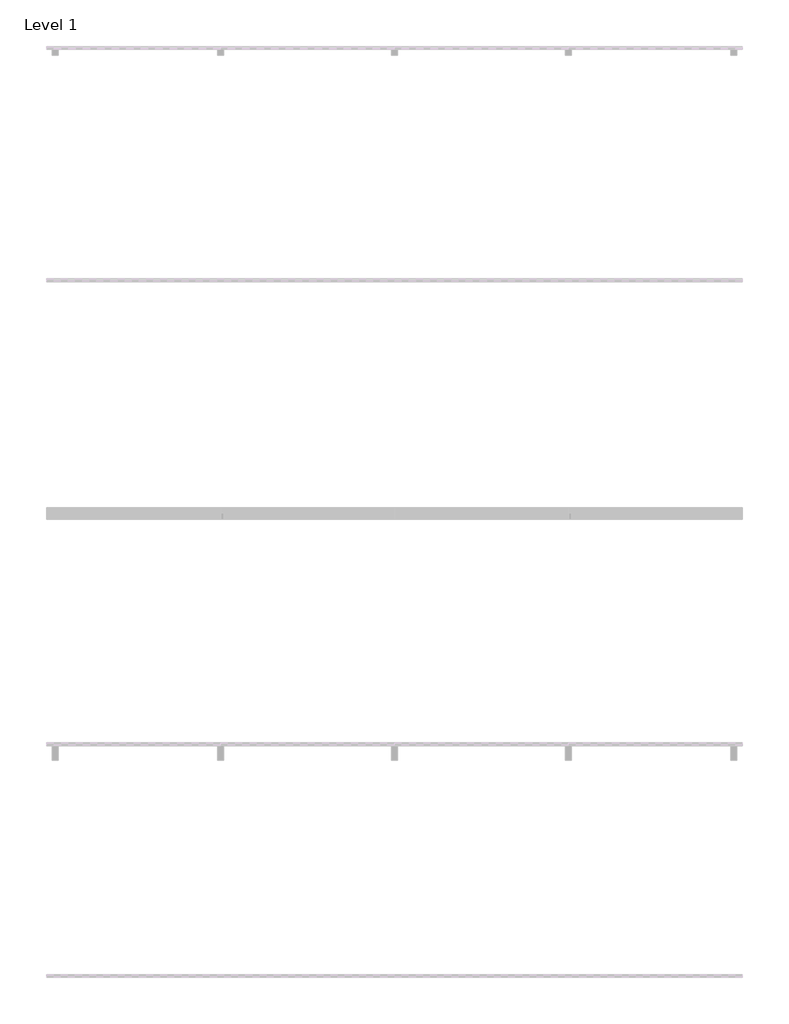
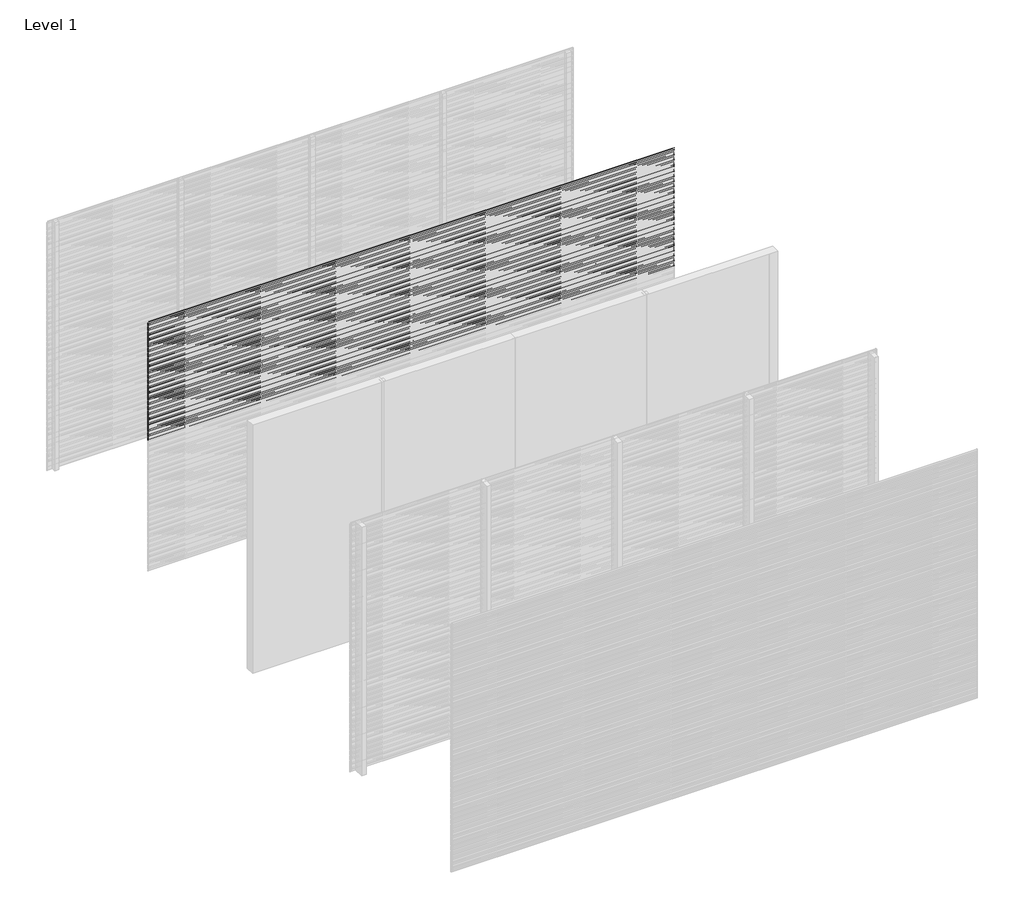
# One storey, part 9 of 31: 98 proxies.
"""IFC4 building model written with IfcOpenShell, lengths in millimetres."""

from ifc_helpers import new_model, si_unit, frame, origin, place, context, project, spatial, polyline, outline, extrude, element, save

model = new_model("IFC4")

# Units and contexts
model_context = context("Model", 3, world=origin())
ifc_project = project(units=[si_unit("LENGTHUNIT", "METRE", prefix="MILLI")], contexts=[model_context])

# Site, building, storey
site = spatial("IfcSite", under=ifc_project)
building = spatial("IfcBuilding", under=site)
storey = spatial("IfcBuildingStorey", under=building, Name="Level 1", Elevation=0.0)

# Proxies
placement = place(None, origin())
element("IfcBuildingElementProxy", 1, Name="Wall Sweeps", at=placement, inside=storey, context=model_context, shape_type="SweptSolid", body=[
    extrude(outline(polyline([(-13995.0, 3000.0), (-13995.0, 2988.942893), (-13976.0, 2973.0), (-13976.0, 2960.0), (-13997.0, 2977.6210923), (-13997.0, 3000.0), (-13995.0, 3000.0)])), frame((0.0, 0.0, 0.0), z_axis=(1.0, 0.0, 0.0), x_axis=(0.0, 1.0, 0.0)), (0.0, 0.0, 1.0), 6000.0),
])
element("IfcBuildingElementProxy", 2, Name="Wall Sweeps", at=placement, inside=storey, context=model_context, shape_type="SweptSolid", body=[
    extrude(outline(polyline([(-13995.0, 2980.0), (-13995.0, 2968.942893), (-13976.0, 2953.0), (-13976.0, 2940.0), (-13997.0, 2957.6210923), (-13997.0, 2980.0), (-13995.0, 2980.0)])), frame((0.0, 0.0, 0.0), z_axis=(1.0, 0.0, 0.0), x_axis=(0.0, 1.0, 0.0)), (0.0, 0.0, 1.0), 6000.0),
])
element("IfcBuildingElementProxy", 3, Name="Wall Sweeps", at=placement, inside=storey, context=model_context, shape_type="SweptSolid", body=[
    extrude(outline(polyline([(-13995.0, 2960.0), (-13995.0, 2948.942893), (-13976.0, 2933.0), (-13976.0, 2920.0), (-13997.0, 2937.6210923), (-13997.0, 2960.0), (-13995.0, 2960.0)])), frame((0.0, 0.0, 0.0), z_axis=(1.0, 0.0, 0.0), x_axis=(0.0, 1.0, 0.0)), (0.0, 0.0, 1.0), 6000.0),
])
element("IfcBuildingElementProxy", 4, Name="Wall Sweeps", at=placement, inside=storey, context=model_context, shape_type="SweptSolid", body=[
    extrude(outline(polyline([(-13995.0, 2940.0), (-13995.0, 2928.942893), (-13976.0, 2913.0), (-13976.0, 2900.0), (-13997.0, 2917.6210923), (-13997.0, 2940.0), (-13995.0, 2940.0)])), frame((0.0, 0.0, 0.0), z_axis=(1.0, 0.0, 0.0), x_axis=(0.0, 1.0, 0.0)), (0.0, 0.0, 1.0), 6000.0),
])
element("IfcBuildingElementProxy", 5, Name="Wall Sweeps", at=placement, inside=storey, context=model_context, shape_type="SweptSolid", body=[
    extrude(outline(polyline([(-13995.0, 2920.0), (-13995.0, 2908.942893), (-13976.0, 2893.0), (-13976.0, 2880.0), (-13997.0, 2897.6210923), (-13997.0, 2920.0), (-13995.0, 2920.0)])), frame((0.0, 0.0, 0.0), z_axis=(1.0, 0.0, 0.0), x_axis=(0.0, 1.0, 0.0)), (0.0, 0.0, 1.0), 6000.0),
])
element("IfcBuildingElementProxy", 6, Name="Wall Sweeps", at=placement, inside=storey, context=model_context, shape_type="SweptSolid", body=[
    extrude(outline(polyline([(-13995.0, 2900.0), (-13995.0, 2888.942893), (-13976.0, 2873.0), (-13976.0, 2860.0), (-13997.0, 2877.6210923), (-13997.0, 2900.0), (-13995.0, 2900.0)])), frame((0.0, 0.0, 0.0), z_axis=(1.0, 0.0, 0.0), x_axis=(0.0, 1.0, 0.0)), (0.0, 0.0, 1.0), 6000.0),
])
element("IfcBuildingElementProxy", 7, Name="Wall Sweeps", at=placement, inside=storey, context=model_context, shape_type="SweptSolid", body=[
    extrude(outline(polyline([(-13995.0, 2880.0), (-13995.0, 2868.942893), (-13976.0, 2853.0), (-13976.0, 2840.0), (-13997.0, 2857.6210923), (-13997.0, 2880.0), (-13995.0, 2880.0)])), frame((0.0, 0.0, 0.0), z_axis=(1.0, 0.0, 0.0), x_axis=(0.0, 1.0, 0.0)), (0.0, 0.0, 1.0), 6000.0),
])
element("IfcBuildingElementProxy", 8, Name="Wall Sweeps", at=placement, inside=storey, context=model_context, shape_type="SweptSolid", body=[
    extrude(outline(polyline([(-13995.0, 2860.0), (-13995.0, 2848.942893), (-13976.0, 2833.0), (-13976.0, 2820.0), (-13997.0, 2837.6210923), (-13997.0, 2860.0), (-13995.0, 2860.0)])), frame((0.0, 0.0, 0.0), z_axis=(1.0, 0.0, 0.0), x_axis=(0.0, 1.0, 0.0)), (0.0, 0.0, 1.0), 6000.0),
])
element("IfcBuildingElementProxy", 9, Name="Wall Sweeps", at=placement, inside=storey, context=model_context, shape_type="SweptSolid", body=[
    extrude(outline(polyline([(-13995.0, 2840.0), (-13995.0, 2828.942893), (-13976.0, 2813.0), (-13976.0, 2800.0), (-13997.0, 2817.6210923), (-13997.0, 2840.0), (-13995.0, 2840.0)])), frame((0.0, 0.0, 0.0), z_axis=(1.0, 0.0, 0.0), x_axis=(0.0, 1.0, 0.0)), (0.0, 0.0, 1.0), 6000.0),
])
element("IfcBuildingElementProxy", 10, Name="Wall Sweeps", at=placement, inside=storey, context=model_context, shape_type="SweptSolid", body=[
    extrude(outline(polyline([(-13995.0, 2820.0), (-13995.0, 2808.942893), (-13976.0, 2793.0), (-13976.0, 2780.0), (-13997.0, 2797.6210923), (-13997.0, 2820.0), (-13995.0, 2820.0)])), frame((0.0, 0.0, 0.0), z_axis=(1.0, 0.0, 0.0), x_axis=(0.0, 1.0, 0.0)), (0.0, 0.0, 1.0), 6000.0),
])
element("IfcBuildingElementProxy", 11, Name="Wall Sweeps", at=placement, inside=storey, context=model_context, shape_type="SweptSolid", body=[
    extrude(outline(polyline([(-13995.0, 2800.0), (-13995.0, 2788.942893), (-13976.0, 2773.0), (-13976.0, 2760.0), (-13997.0, 2777.6210923), (-13997.0, 2800.0), (-13995.0, 2800.0)])), frame((0.0, 0.0, 0.0), z_axis=(1.0, 0.0, 0.0), x_axis=(0.0, 1.0, 0.0)), (0.0, 0.0, 1.0), 6000.0),
])
element("IfcBuildingElementProxy", 12, Name="Wall Sweeps", at=placement, inside=storey, context=model_context, shape_type="SweptSolid", body=[
    extrude(outline(polyline([(-13995.0, 2780.0), (-13995.0, 2768.942893), (-13976.0, 2753.0), (-13976.0, 2740.0), (-13997.0, 2757.6210923), (-13997.0, 2780.0), (-13995.0, 2780.0)])), frame((0.0, 0.0, 0.0), z_axis=(1.0, 0.0, 0.0), x_axis=(0.0, 1.0, 0.0)), (0.0, 0.0, 1.0), 6000.0),
])
element("IfcBuildingElementProxy", 13, Name="Wall Sweeps", at=placement, inside=storey, context=model_context, shape_type="SweptSolid", body=[
    extrude(outline(polyline([(-13995.0, 2760.0), (-13995.0, 2748.942893), (-13976.0, 2733.0), (-13976.0, 2720.0), (-13997.0, 2737.6210923), (-13997.0, 2760.0), (-13995.0, 2760.0)])), frame((0.0, 0.0, 0.0), z_axis=(1.0, 0.0, 0.0), x_axis=(0.0, 1.0, 0.0)), (0.0, 0.0, 1.0), 6000.0),
])
element("IfcBuildingElementProxy", 14, Name="Wall Sweeps", at=placement, inside=storey, context=model_context, shape_type="SweptSolid", body=[
    extrude(outline(polyline([(-13995.0, 2740.0), (-13995.0, 2728.942893), (-13976.0, 2713.0), (-13976.0, 2700.0), (-13997.0, 2717.6210923), (-13997.0, 2740.0), (-13995.0, 2740.0)])), frame((0.0, 0.0, 0.0), z_axis=(1.0, 0.0, 0.0), x_axis=(0.0, 1.0, 0.0)), (0.0, 0.0, 1.0), 6000.0),
])
element("IfcBuildingElementProxy", 15, Name="Wall Sweeps", at=placement, inside=storey, context=model_context, shape_type="SweptSolid", body=[
    extrude(outline(polyline([(-13995.0, 2720.0), (-13995.0, 2708.942893), (-13976.0, 2693.0), (-13976.0, 2680.0), (-13997.0, 2697.6210923), (-13997.0, 2720.0), (-13995.0, 2720.0)])), frame((0.0, 0.0, 0.0), z_axis=(1.0, 0.0, 0.0), x_axis=(0.0, 1.0, 0.0)), (0.0, 0.0, 1.0), 6000.0),
])
element("IfcBuildingElementProxy", 16, Name="Wall Sweeps", at=placement, inside=storey, context=model_context, shape_type="SweptSolid", body=[
    extrude(outline(polyline([(-13995.0, 2700.0), (-13995.0, 2688.942893), (-13976.0, 2673.0), (-13976.0, 2660.0), (-13997.0, 2677.6210923), (-13997.0, 2700.0), (-13995.0, 2700.0)])), frame((0.0, 0.0, 0.0), z_axis=(1.0, 0.0, 0.0), x_axis=(0.0, 1.0, 0.0)), (0.0, 0.0, 1.0), 6000.0),
])
element("IfcBuildingElementProxy", 17, Name="Wall Sweeps", at=placement, inside=storey, context=model_context, shape_type="SweptSolid", body=[
    extrude(outline(polyline([(-13995.0, 2680.0), (-13995.0, 2668.942893), (-13976.0, 2653.0), (-13976.0, 2640.0), (-13997.0, 2657.6210923), (-13997.0, 2680.0), (-13995.0, 2680.0)])), frame((0.0, 0.0, 0.0), z_axis=(1.0, 0.0, 0.0), x_axis=(0.0, 1.0, 0.0)), (0.0, 0.0, 1.0), 6000.0),
])
element("IfcBuildingElementProxy", 18, Name="Wall Sweeps", at=placement, inside=storey, context=model_context, shape_type="SweptSolid", body=[
    extrude(outline(polyline([(-13995.0, 2660.0), (-13995.0, 2648.942893), (-13976.0, 2633.0), (-13976.0, 2620.0), (-13997.0, 2637.6210923), (-13997.0, 2660.0), (-13995.0, 2660.0)])), frame((0.0, 0.0, 0.0), z_axis=(1.0, 0.0, 0.0), x_axis=(0.0, 1.0, 0.0)), (0.0, 0.0, 1.0), 6000.0),
])
element("IfcBuildingElementProxy", 19, Name="Wall Sweeps", at=placement, inside=storey, context=model_context, shape_type="SweptSolid", body=[
    extrude(outline(polyline([(-13995.0, 2640.0), (-13995.0, 2628.942893), (-13976.0, 2613.0), (-13976.0, 2600.0), (-13997.0, 2617.6210923), (-13997.0, 2640.0), (-13995.0, 2640.0)])), frame((0.0, 0.0, 0.0), z_axis=(1.0, 0.0, 0.0), x_axis=(0.0, 1.0, 0.0)), (0.0, 0.0, 1.0), 6000.0),
])
element("IfcBuildingElementProxy", 20, Name="Wall Sweeps", at=placement, inside=storey, context=model_context, shape_type="SweptSolid", body=[
    extrude(outline(polyline([(-13995.0, 2620.0), (-13995.0, 2608.942893), (-13976.0, 2593.0), (-13976.0, 2580.0), (-13997.0, 2597.6210923), (-13997.0, 2620.0), (-13995.0, 2620.0)])), frame((0.0, 0.0, 0.0), z_axis=(1.0, 0.0, 0.0), x_axis=(0.0, 1.0, 0.0)), (0.0, 0.0, 1.0), 6000.0),
])
element("IfcBuildingElementProxy", 21, Name="Wall Sweeps", at=placement, inside=storey, context=model_context, shape_type="SweptSolid", body=[
    extrude(outline(polyline([(-13995.0, 2600.0), (-13995.0, 2588.942893), (-13976.0, 2573.0), (-13976.0, 2560.0), (-13997.0, 2577.6210923), (-13997.0, 2600.0), (-13995.0, 2600.0)])), frame((0.0, 0.0, 0.0), z_axis=(1.0, 0.0, 0.0), x_axis=(0.0, 1.0, 0.0)), (0.0, 0.0, 1.0), 6000.0),
])
element("IfcBuildingElementProxy", 22, Name="Wall Sweeps", at=placement, inside=storey, context=model_context, shape_type="SweptSolid", body=[
    extrude(outline(polyline([(-13995.0, 2580.0), (-13995.0, 2568.942893), (-13976.0, 2553.0), (-13976.0, 2540.0), (-13997.0, 2557.6210923), (-13997.0, 2580.0), (-13995.0, 2580.0)])), frame((0.0, 0.0, 0.0), z_axis=(1.0, 0.0, 0.0), x_axis=(0.0, 1.0, 0.0)), (0.0, 0.0, 1.0), 6000.0),
])
element("IfcBuildingElementProxy", 23, Name="Wall Sweeps", at=placement, inside=storey, context=model_context, shape_type="SweptSolid", body=[
    extrude(outline(polyline([(-13995.0, 2560.0), (-13995.0, 2548.942893), (-13976.0, 2533.0), (-13976.0, 2520.0), (-13997.0, 2537.6210923), (-13997.0, 2560.0), (-13995.0, 2560.0)])), frame((0.0, 0.0, 0.0), z_axis=(1.0, 0.0, 0.0), x_axis=(0.0, 1.0, 0.0)), (0.0, 0.0, 1.0), 6000.0),
])
element("IfcBuildingElementProxy", 24, Name="Wall Sweeps", at=placement, inside=storey, context=model_context, shape_type="SweptSolid", body=[
    extrude(outline(polyline([(-13995.0, 2540.0), (-13995.0, 2528.942893), (-13976.0, 2513.0), (-13976.0, 2500.0), (-13997.0, 2517.6210923), (-13997.0, 2540.0), (-13995.0, 2540.0)])), frame((0.0, 0.0, 0.0), z_axis=(1.0, 0.0, 0.0), x_axis=(0.0, 1.0, 0.0)), (0.0, 0.0, 1.0), 6000.0),
])
element("IfcBuildingElementProxy", 25, Name="Wall Sweeps", at=placement, inside=storey, context=model_context, shape_type="SweptSolid", body=[
    extrude(outline(polyline([(-13995.0, 2520.0), (-13995.0, 2508.942893), (-13976.0, 2493.0), (-13976.0, 2480.0), (-13997.0, 2497.6210923), (-13997.0, 2520.0), (-13995.0, 2520.0)])), frame((0.0, 0.0, 0.0), z_axis=(1.0, 0.0, 0.0), x_axis=(0.0, 1.0, 0.0)), (0.0, 0.0, 1.0), 6000.0),
])
element("IfcBuildingElementProxy", 26, Name="Wall Sweeps", at=placement, inside=storey, context=model_context, shape_type="SweptSolid", body=[
    extrude(outline(polyline([(-13995.0, 2500.0), (-13995.0, 2488.942893), (-13976.0, 2473.0), (-13976.0, 2460.0), (-13997.0, 2477.6210923), (-13997.0, 2500.0), (-13995.0, 2500.0)])), frame((0.0, 0.0, 0.0), z_axis=(1.0, 0.0, 0.0), x_axis=(0.0, 1.0, 0.0)), (0.0, 0.0, 1.0), 6000.0),
])
element("IfcBuildingElementProxy", 27, Name="Wall Sweeps", at=placement, inside=storey, context=model_context, shape_type="SweptSolid", body=[
    extrude(outline(polyline([(-13995.0, 2480.0), (-13995.0, 2468.942893), (-13976.0, 2453.0), (-13976.0, 2440.0), (-13997.0, 2457.6210923), (-13997.0, 2480.0), (-13995.0, 2480.0)])), frame((0.0, 0.0, 0.0), z_axis=(1.0, 0.0, 0.0), x_axis=(0.0, 1.0, 0.0)), (0.0, 0.0, 1.0), 6000.0),
])
element("IfcBuildingElementProxy", 28, Name="Wall Sweeps", at=placement, inside=storey, context=model_context, shape_type="SweptSolid", body=[
    extrude(outline(polyline([(-13995.0, 2460.0), (-13995.0, 2448.942893), (-13976.0, 2433.0), (-13976.0, 2420.0), (-13997.0, 2437.6210923), (-13997.0, 2460.0), (-13995.0, 2460.0)])), frame((0.0, 0.0, 0.0), z_axis=(1.0, 0.0, 0.0), x_axis=(0.0, 1.0, 0.0)), (0.0, 0.0, 1.0), 6000.0),
])
element("IfcBuildingElementProxy", 29, Name="Wall Sweeps", at=placement, inside=storey, context=model_context, shape_type="SweptSolid", body=[
    extrude(outline(polyline([(-13995.0, 2440.0), (-13995.0, 2428.942893), (-13976.0, 2413.0), (-13976.0, 2400.0), (-13997.0, 2417.6210923), (-13997.0, 2440.0), (-13995.0, 2440.0)])), frame((0.0, 0.0, 0.0), z_axis=(1.0, 0.0, 0.0), x_axis=(0.0, 1.0, 0.0)), (0.0, 0.0, 1.0), 6000.0),
])
element("IfcBuildingElementProxy", 30, Name="Wall Sweeps", at=placement, inside=storey, context=model_context, shape_type="SweptSolid", body=[
    extrude(outline(polyline([(-13995.0, 2420.0), (-13995.0, 2408.942893), (-13976.0, 2393.0), (-13976.0, 2380.0), (-13997.0, 2397.6210923), (-13997.0, 2420.0), (-13995.0, 2420.0)])), frame((0.0, 0.0, 0.0), z_axis=(1.0, 0.0, 0.0), x_axis=(0.0, 1.0, 0.0)), (0.0, 0.0, 1.0), 6000.0),
])
element("IfcBuildingElementProxy", 31, Name="Wall Sweeps", at=placement, inside=storey, context=model_context, shape_type="SweptSolid", body=[
    extrude(outline(polyline([(-13995.0, 2400.0), (-13995.0, 2388.942893), (-13976.0, 2373.0), (-13976.0, 2360.0), (-13997.0, 2377.6210923), (-13997.0, 2400.0), (-13995.0, 2400.0)])), frame((0.0, 0.0, 0.0), z_axis=(1.0, 0.0, 0.0), x_axis=(0.0, 1.0, 0.0)), (0.0, 0.0, 1.0), 6000.0),
])
element("IfcBuildingElementProxy", 32, Name="Wall Sweeps", at=placement, inside=storey, context=model_context, shape_type="SweptSolid", body=[
    extrude(outline(polyline([(-13995.0, 2380.0), (-13995.0, 2368.942893), (-13976.0, 2353.0), (-13976.0, 2340.0), (-13997.0, 2357.6210923), (-13997.0, 2380.0), (-13995.0, 2380.0)])), frame((0.0, 0.0, 0.0), z_axis=(1.0, 0.0, 0.0), x_axis=(0.0, 1.0, 0.0)), (0.0, 0.0, 1.0), 6000.0),
])
element("IfcBuildingElementProxy", 33, Name="Wall Sweeps", at=placement, inside=storey, context=model_context, shape_type="SweptSolid", body=[
    extrude(outline(polyline([(-13995.0, 2360.0), (-13995.0, 2348.942893), (-13976.0, 2333.0), (-13976.0, 2320.0), (-13997.0, 2337.6210923), (-13997.0, 2360.0), (-13995.0, 2360.0)])), frame((0.0, 0.0, 0.0), z_axis=(1.0, 0.0, 0.0), x_axis=(0.0, 1.0, 0.0)), (0.0, 0.0, 1.0), 6000.0),
])
element("IfcBuildingElementProxy", 34, Name="Wall Sweeps", at=placement, inside=storey, context=model_context, shape_type="SweptSolid", body=[
    extrude(outline(polyline([(-13995.0, 2340.0), (-13995.0, 2328.942893), (-13976.0, 2313.0), (-13976.0, 2300.0), (-13997.0, 2317.6210923), (-13997.0, 2340.0), (-13995.0, 2340.0)])), frame((0.0, 0.0, 0.0), z_axis=(1.0, 0.0, 0.0), x_axis=(0.0, 1.0, 0.0)), (0.0, 0.0, 1.0), 6000.0),
])
element("IfcBuildingElementProxy", 35, Name="Wall Sweeps", at=placement, inside=storey, context=model_context, shape_type="SweptSolid", body=[
    extrude(outline(polyline([(-13995.0, 2320.0), (-13995.0, 2308.942893), (-13976.0, 2293.0), (-13976.0, 2280.0), (-13997.0, 2297.6210923), (-13997.0, 2320.0), (-13995.0, 2320.0)])), frame((0.0, 0.0, 0.0), z_axis=(1.0, 0.0, 0.0), x_axis=(0.0, 1.0, 0.0)), (0.0, 0.0, 1.0), 6000.0),
])
element("IfcBuildingElementProxy", 36, Name="Wall Sweeps", at=placement, inside=storey, context=model_context, shape_type="SweptSolid", body=[
    extrude(outline(polyline([(-13995.0, 2300.0), (-13995.0, 2288.942893), (-13976.0, 2273.0), (-13976.0, 2260.0), (-13997.0, 2277.6210923), (-13997.0, 2300.0), (-13995.0, 2300.0)])), frame((0.0, 0.0, 0.0), z_axis=(1.0, 0.0, 0.0), x_axis=(0.0, 1.0, 0.0)), (0.0, 0.0, 1.0), 6000.0),
])
element("IfcBuildingElementProxy", 37, Name="Wall Sweeps", at=placement, inside=storey, context=model_context, shape_type="SweptSolid", body=[
    extrude(outline(polyline([(-13995.0, 2280.0), (-13995.0, 2268.942893), (-13976.0, 2253.0), (-13976.0, 2240.0), (-13997.0, 2257.6210923), (-13997.0, 2280.0), (-13995.0, 2280.0)])), frame((0.0, 0.0, 0.0), z_axis=(1.0, 0.0, 0.0), x_axis=(0.0, 1.0, 0.0)), (0.0, 0.0, 1.0), 6000.0),
])
element("IfcBuildingElementProxy", 38, Name="Wall Sweeps", at=placement, inside=storey, context=model_context, shape_type="SweptSolid", body=[
    extrude(outline(polyline([(-13995.0, 2260.0), (-13995.0, 2248.942893), (-13976.0, 2233.0), (-13976.0, 2220.0), (-13997.0, 2237.6210923), (-13997.0, 2260.0), (-13995.0, 2260.0)])), frame((0.0, 0.0, 0.0), z_axis=(1.0, 0.0, 0.0), x_axis=(0.0, 1.0, 0.0)), (0.0, 0.0, 1.0), 6000.0),
])
element("IfcBuildingElementProxy", 39, Name="Wall Sweeps", at=placement, inside=storey, context=model_context, shape_type="SweptSolid", body=[
    extrude(outline(polyline([(-13995.0, 2240.0), (-13995.0, 2228.942893), (-13976.0, 2213.0), (-13976.0, 2200.0), (-13997.0, 2217.6210923), (-13997.0, 2240.0), (-13995.0, 2240.0)])), frame((0.0, 0.0, 0.0), z_axis=(1.0, 0.0, 0.0), x_axis=(0.0, 1.0, 0.0)), (0.0, 0.0, 1.0), 6000.0),
])
element("IfcBuildingElementProxy", 40, Name="Wall Sweeps", at=placement, inside=storey, context=model_context, shape_type="SweptSolid", body=[
    extrude(outline(polyline([(-13995.0, 2220.0), (-13995.0, 2208.942893), (-13976.0, 2193.0), (-13976.0, 2180.0), (-13997.0, 2197.6210923), (-13997.0, 2220.0), (-13995.0, 2220.0)])), frame((0.0, 0.0, 0.0), z_axis=(1.0, 0.0, 0.0), x_axis=(0.0, 1.0, 0.0)), (0.0, 0.0, 1.0), 6000.0),
])
element("IfcBuildingElementProxy", 41, Name="Wall Sweeps", at=placement, inside=storey, context=model_context, shape_type="SweptSolid", body=[
    extrude(outline(polyline([(-13995.0, 2200.0), (-13995.0, 2188.942893), (-13976.0, 2173.0), (-13976.0, 2160.0), (-13997.0, 2177.6210923), (-13997.0, 2200.0), (-13995.0, 2200.0)])), frame((0.0, 0.0, 0.0), z_axis=(1.0, 0.0, 0.0), x_axis=(0.0, 1.0, 0.0)), (0.0, 0.0, 1.0), 6000.0),
])
element("IfcBuildingElementProxy", 42, Name="Wall Sweeps", at=placement, inside=storey, context=model_context, shape_type="SweptSolid", body=[
    extrude(outline(polyline([(-13995.0, 2180.0), (-13995.0, 2168.942893), (-13976.0, 2153.0), (-13976.0, 2140.0), (-13997.0, 2157.6210923), (-13997.0, 2180.0), (-13995.0, 2180.0)])), frame((0.0, 0.0, 0.0), z_axis=(1.0, 0.0, 0.0), x_axis=(0.0, 1.0, 0.0)), (0.0, 0.0, 1.0), 6000.0),
])
element("IfcBuildingElementProxy", 43, Name="Wall Sweeps", at=placement, inside=storey, context=model_context, shape_type="SweptSolid", body=[
    extrude(outline(polyline([(-13995.0, 2160.0), (-13995.0, 2148.942893), (-13976.0, 2133.0), (-13976.0, 2120.0), (-13997.0, 2137.6210923), (-13997.0, 2160.0), (-13995.0, 2160.0)])), frame((0.0, 0.0, 0.0), z_axis=(1.0, 0.0, 0.0), x_axis=(0.0, 1.0, 0.0)), (0.0, 0.0, 1.0), 6000.0),
])
element("IfcBuildingElementProxy", 44, Name="Wall Sweeps", at=placement, inside=storey, context=model_context, shape_type="SweptSolid", body=[
    extrude(outline(polyline([(-13995.0, 2140.0), (-13995.0, 2128.942893), (-13976.0, 2113.0), (-13976.0, 2100.0), (-13997.0, 2117.6210923), (-13997.0, 2140.0), (-13995.0, 2140.0)])), frame((0.0, 0.0, 0.0), z_axis=(1.0, 0.0, 0.0), x_axis=(0.0, 1.0, 0.0)), (0.0, 0.0, 1.0), 6000.0),
])
element("IfcBuildingElementProxy", 45, Name="Wall Sweeps", at=placement, inside=storey, context=model_context, shape_type="SweptSolid", body=[
    extrude(outline(polyline([(-13995.0, 2120.0), (-13995.0, 2108.942893), (-13976.0, 2093.0), (-13976.0, 2080.0), (-13997.0, 2097.6210923), (-13997.0, 2120.0), (-13995.0, 2120.0)])), frame((0.0, 0.0, 0.0), z_axis=(1.0, 0.0, 0.0), x_axis=(0.0, 1.0, 0.0)), (0.0, 0.0, 1.0), 6000.0),
])
element("IfcBuildingElementProxy", 46, Name="Wall Sweeps", at=placement, inside=storey, context=model_context, shape_type="SweptSolid", body=[
    extrude(outline(polyline([(-13995.0, 2100.0), (-13995.0, 2088.942893), (-13976.0, 2073.0), (-13976.0, 2060.0), (-13997.0, 2077.6210923), (-13997.0, 2100.0), (-13995.0, 2100.0)])), frame((0.0, 0.0, 0.0), z_axis=(1.0, 0.0, 0.0), x_axis=(0.0, 1.0, 0.0)), (0.0, 0.0, 1.0), 6000.0),
])
element("IfcBuildingElementProxy", 47, Name="Wall Sweeps", at=placement, inside=storey, context=model_context, shape_type="SweptSolid", body=[
    extrude(outline(polyline([(-13995.0, 2080.0), (-13995.0, 2068.942893), (-13976.0, 2053.0), (-13976.0, 2040.0), (-13997.0, 2057.6210923), (-13997.0, 2080.0), (-13995.0, 2080.0)])), frame((0.0, 0.0, 0.0), z_axis=(1.0, 0.0, 0.0), x_axis=(0.0, 1.0, 0.0)), (0.0, 0.0, 1.0), 6000.0),
])
element("IfcBuildingElementProxy", 48, Name="Wall Sweeps", at=placement, inside=storey, context=model_context, shape_type="SweptSolid", body=[
    extrude(outline(polyline([(-13995.0, 2060.0), (-13995.0, 2048.942893), (-13976.0, 2033.0), (-13976.0, 2020.0), (-13997.0, 2037.6210923), (-13997.0, 2060.0), (-13995.0, 2060.0)])), frame((0.0, 0.0, 0.0), z_axis=(1.0, 0.0, 0.0), x_axis=(0.0, 1.0, 0.0)), (0.0, 0.0, 1.0), 6000.0),
])
element("IfcBuildingElementProxy", 49, Name="Wall Sweeps", at=placement, inside=storey, context=model_context, shape_type="SweptSolid", body=[
    extrude(outline(polyline([(-13995.0, 2040.0), (-13995.0, 2028.942893), (-13976.0, 2013.0), (-13976.0, 2000.0), (-13997.0, 2017.6210923), (-13997.0, 2040.0), (-13995.0, 2040.0)])), frame((0.0, 0.0, 0.0), z_axis=(1.0, 0.0, 0.0), x_axis=(0.0, 1.0, 0.0)), (0.0, 0.0, 1.0), 6000.0),
])
element("IfcBuildingElementProxy", 50, Name="Wall Sweeps", at=placement, inside=storey, context=model_context, shape_type="SweptSolid", body=[
    extrude(outline(polyline([(-13995.0, 2020.0), (-13995.0, 2008.942893), (-13976.0, 1993.0), (-13976.0, 1980.0), (-13997.0, 1997.6210923), (-13997.0, 2020.0), (-13995.0, 2020.0)])), frame((0.0, 0.0, 0.0), z_axis=(1.0, 0.0, 0.0), x_axis=(0.0, 1.0, 0.0)), (0.0, 0.0, 1.0), 6000.0),
])
element("IfcBuildingElementProxy", 51, Name="Wall Sweeps", at=placement, inside=storey, context=model_context, shape_type="SweptSolid", body=[
    extrude(outline(polyline([(-13995.0, 2000.0), (-13995.0, 1988.942893), (-13976.0, 1973.0), (-13976.0, 1960.0), (-13997.0, 1977.6210923), (-13997.0, 2000.0), (-13995.0, 2000.0)])), frame((0.0, 0.0, 0.0), z_axis=(1.0, 0.0, 0.0), x_axis=(0.0, 1.0, 0.0)), (0.0, 0.0, 1.0), 6000.0),
])
element("IfcBuildingElementProxy", 52, Name="Wall Sweeps", at=placement, inside=storey, context=model_context, shape_type="SweptSolid", body=[
    extrude(outline(polyline([(-13995.0, 1980.0), (-13995.0, 1968.942893), (-13976.0, 1953.0), (-13976.0, 1940.0), (-13997.0, 1957.6210923), (-13997.0, 1980.0), (-13995.0, 1980.0)])), frame((0.0, 0.0, 0.0), z_axis=(1.0, 0.0, 0.0), x_axis=(0.0, 1.0, 0.0)), (0.0, 0.0, 1.0), 6000.0),
])
element("IfcBuildingElementProxy", 53, Name="Wall Sweeps", at=placement, inside=storey, context=model_context, shape_type="SweptSolid", body=[
    extrude(outline(polyline([(-13995.0, 1960.0), (-13995.0, 1948.942893), (-13976.0, 1933.0), (-13976.0, 1920.0), (-13997.0, 1937.6210923), (-13997.0, 1960.0), (-13995.0, 1960.0)])), frame((0.0, 0.0, 0.0), z_axis=(1.0, 0.0, 0.0), x_axis=(0.0, 1.0, 0.0)), (0.0, 0.0, 1.0), 6000.0),
])
element("IfcBuildingElementProxy", 54, Name="Wall Sweeps", at=placement, inside=storey, context=model_context, shape_type="SweptSolid", body=[
    extrude(outline(polyline([(-13995.0, 1940.0), (-13995.0, 1928.942893), (-13976.0, 1913.0), (-13976.0, 1900.0), (-13997.0, 1917.6210923), (-13997.0, 1940.0), (-13995.0, 1940.0)])), frame((0.0, 0.0, 0.0), z_axis=(1.0, 0.0, 0.0), x_axis=(0.0, 1.0, 0.0)), (0.0, 0.0, 1.0), 6000.0),
])
element("IfcBuildingElementProxy", 55, Name="Wall Sweeps", at=placement, inside=storey, context=model_context, shape_type="SweptSolid", body=[
    extrude(outline(polyline([(-13995.0, 1920.0), (-13995.0, 1908.942893), (-13976.0, 1893.0), (-13976.0, 1880.0), (-13997.0, 1897.6210923), (-13997.0, 1920.0), (-13995.0, 1920.0)])), frame((0.0, 0.0, 0.0), z_axis=(1.0, 0.0, 0.0), x_axis=(0.0, 1.0, 0.0)), (0.0, 0.0, 1.0), 6000.0),
])
element("IfcBuildingElementProxy", 56, Name="Wall Sweeps", at=placement, inside=storey, context=model_context, shape_type="SweptSolid", body=[
    extrude(outline(polyline([(-13995.0, 1900.0), (-13995.0, 1888.942893), (-13976.0, 1873.0), (-13976.0, 1860.0), (-13997.0, 1877.6210923), (-13997.0, 1900.0), (-13995.0, 1900.0)])), frame((0.0, 0.0, 0.0), z_axis=(1.0, 0.0, 0.0), x_axis=(0.0, 1.0, 0.0)), (0.0, 0.0, 1.0), 6000.0),
])
element("IfcBuildingElementProxy", 57, Name="Wall Sweeps", at=placement, inside=storey, context=model_context, shape_type="SweptSolid", body=[
    extrude(outline(polyline([(-13995.0, 1880.0), (-13995.0, 1868.942893), (-13976.0, 1853.0), (-13976.0, 1840.0), (-13997.0, 1857.6210923), (-13997.0, 1880.0), (-13995.0, 1880.0)])), frame((0.0, 0.0, 0.0), z_axis=(1.0, 0.0, 0.0), x_axis=(0.0, 1.0, 0.0)), (0.0, 0.0, 1.0), 6000.0),
])
element("IfcBuildingElementProxy", 58, Name="Wall Sweeps", at=placement, inside=storey, context=model_context, shape_type="SweptSolid", body=[
    extrude(outline(polyline([(-13995.0, 1860.0), (-13995.0, 1848.942893), (-13976.0, 1833.0), (-13976.0, 1820.0), (-13997.0, 1837.6210923), (-13997.0, 1860.0), (-13995.0, 1860.0)])), frame((0.0, 0.0, 0.0), z_axis=(1.0, 0.0, 0.0), x_axis=(0.0, 1.0, 0.0)), (0.0, 0.0, 1.0), 6000.0),
])
element("IfcBuildingElementProxy", 59, Name="Wall Sweeps", at=placement, inside=storey, context=model_context, shape_type="SweptSolid", body=[
    extrude(outline(polyline([(-13995.0, 1840.0), (-13995.0, 1828.942893), (-13976.0, 1813.0), (-13976.0, 1800.0), (-13997.0, 1817.6210923), (-13997.0, 1840.0), (-13995.0, 1840.0)])), frame((0.0, 0.0, 0.0), z_axis=(1.0, 0.0, 0.0), x_axis=(0.0, 1.0, 0.0)), (0.0, 0.0, 1.0), 6000.0),
])
element("IfcBuildingElementProxy", 60, Name="Wall Sweeps", at=placement, inside=storey, context=model_context, shape_type="SweptSolid", body=[
    extrude(outline(polyline([(-13995.0, 1820.0), (-13995.0, 1808.942893), (-13976.0, 1793.0), (-13976.0, 1780.0), (-13997.0, 1797.6210923), (-13997.0, 1820.0), (-13995.0, 1820.0)])), frame((0.0, 0.0, 0.0), z_axis=(1.0, 0.0, 0.0), x_axis=(0.0, 1.0, 0.0)), (0.0, 0.0, 1.0), 6000.0),
])
element("IfcBuildingElementProxy", 61, Name="Wall Sweeps", at=placement, inside=storey, context=model_context, shape_type="SweptSolid", body=[
    extrude(outline(polyline([(-13995.0, 1800.0), (-13995.0, 1788.942893), (-13976.0, 1773.0), (-13976.0, 1760.0), (-13997.0, 1777.6210923), (-13997.0, 1800.0), (-13995.0, 1800.0)])), frame((0.0, 0.0, 0.0), z_axis=(1.0, 0.0, 0.0), x_axis=(0.0, 1.0, 0.0)), (0.0, 0.0, 1.0), 6000.0),
])
element("IfcBuildingElementProxy", 62, Name="Wall Sweeps", at=placement, inside=storey, context=model_context, shape_type="SweptSolid", body=[
    extrude(outline(polyline([(-13995.0, 1780.0), (-13995.0, 1768.942893), (-13976.0, 1753.0), (-13976.0, 1740.0), (-13997.0, 1757.6210923), (-13997.0, 1780.0), (-13995.0, 1780.0)])), frame((0.0, 0.0, 0.0), z_axis=(1.0, 0.0, 0.0), x_axis=(0.0, 1.0, 0.0)), (0.0, 0.0, 1.0), 6000.0),
])
element("IfcBuildingElementProxy", 63, Name="Wall Sweeps", at=placement, inside=storey, context=model_context, shape_type="SweptSolid", body=[
    extrude(outline(polyline([(-13995.0, 1760.0), (-13995.0, 1748.942893), (-13976.0, 1733.0), (-13976.0, 1720.0), (-13997.0, 1737.6210923), (-13997.0, 1760.0), (-13995.0, 1760.0)])), frame((0.0, 0.0, 0.0), z_axis=(1.0, 0.0, 0.0), x_axis=(0.0, 1.0, 0.0)), (0.0, 0.0, 1.0), 6000.0),
])
element("IfcBuildingElementProxy", 64, Name="Wall Sweeps", at=placement, inside=storey, context=model_context, shape_type="SweptSolid", body=[
    extrude(outline(polyline([(-13995.0, 1740.0), (-13995.0, 1728.942893), (-13976.0, 1713.0), (-13976.0, 1700.0), (-13997.0, 1717.6210923), (-13997.0, 1740.0), (-13995.0, 1740.0)])), frame((0.0, 0.0, 0.0), z_axis=(1.0, 0.0, 0.0), x_axis=(0.0, 1.0, 0.0)), (0.0, 0.0, 1.0), 6000.0),
])
element("IfcBuildingElementProxy", 65, Name="Wall Sweeps", at=placement, inside=storey, context=model_context, shape_type="SweptSolid", body=[
    extrude(outline(polyline([(-13995.0, 1720.0), (-13995.0, 1708.942893), (-13976.0, 1693.0), (-13976.0, 1680.0), (-13997.0, 1697.6210923), (-13997.0, 1720.0), (-13995.0, 1720.0)])), frame((0.0, 0.0, 0.0), z_axis=(1.0, 0.0, 0.0), x_axis=(0.0, 1.0, 0.0)), (0.0, 0.0, 1.0), 6000.0),
])
element("IfcBuildingElementProxy", 66, Name="Wall Sweeps", at=placement, inside=storey, context=model_context, shape_type="SweptSolid", body=[
    extrude(outline(polyline([(-13995.0, 1700.0), (-13995.0, 1688.942893), (-13976.0, 1673.0), (-13976.0, 1660.0), (-13997.0, 1677.6210923), (-13997.0, 1700.0), (-13995.0, 1700.0)])), frame((0.0, 0.0, 0.0), z_axis=(1.0, 0.0, 0.0), x_axis=(0.0, 1.0, 0.0)), (0.0, 0.0, 1.0), 6000.0),
])
element("IfcBuildingElementProxy", 67, Name="Wall Sweeps", at=placement, inside=storey, context=model_context, shape_type="SweptSolid", body=[
    extrude(outline(polyline([(-13995.0, 1680.0), (-13995.0, 1668.942893), (-13976.0, 1653.0), (-13976.0, 1640.0), (-13997.0, 1657.6210923), (-13997.0, 1680.0), (-13995.0, 1680.0)])), frame((0.0, 0.0, 0.0), z_axis=(1.0, 0.0, 0.0), x_axis=(0.0, 1.0, 0.0)), (0.0, 0.0, 1.0), 6000.0),
])
element("IfcBuildingElementProxy", 68, Name="Wall Sweeps", at=placement, inside=storey, context=model_context, shape_type="SweptSolid", body=[
    extrude(outline(polyline([(-13995.0, 1660.0), (-13995.0, 1648.942893), (-13976.0, 1633.0), (-13976.0, 1620.0), (-13997.0, 1637.6210923), (-13997.0, 1660.0), (-13995.0, 1660.0)])), frame((0.0, 0.0, 0.0), z_axis=(1.0, 0.0, 0.0), x_axis=(0.0, 1.0, 0.0)), (0.0, 0.0, 1.0), 6000.0),
])
element("IfcBuildingElementProxy", 69, Name="Wall Sweeps", at=placement, inside=storey, context=model_context, shape_type="SweptSolid", body=[
    extrude(outline(polyline([(-13995.0, 1640.0), (-13995.0, 1628.942893), (-13976.0, 1613.0), (-13976.0, 1600.0), (-13997.0, 1617.6210923), (-13997.0, 1640.0), (-13995.0, 1640.0)])), frame((0.0, 0.0, 0.0), z_axis=(1.0, 0.0, 0.0), x_axis=(0.0, 1.0, 0.0)), (0.0, 0.0, 1.0), 6000.0),
])
element("IfcBuildingElementProxy", 70, Name="Wall Sweeps", at=placement, inside=storey, context=model_context, shape_type="SweptSolid", body=[
    extrude(outline(polyline([(-13995.0, 1620.0), (-13995.0, 1608.942893), (-13976.0, 1593.0), (-13976.0, 1580.0), (-13997.0, 1597.6210923), (-13997.0, 1620.0), (-13995.0, 1620.0)])), frame((0.0, 0.0, 0.0), z_axis=(1.0, 0.0, 0.0), x_axis=(0.0, 1.0, 0.0)), (0.0, 0.0, 1.0), 6000.0),
])
element("IfcBuildingElementProxy", 71, Name="Wall Sweeps", at=placement, inside=storey, context=model_context, shape_type="SweptSolid", body=[
    extrude(outline(polyline([(-13995.0, 1600.0), (-13995.0, 1588.942893), (-13976.0, 1573.0), (-13976.0, 1560.0), (-13997.0, 1577.6210923), (-13997.0, 1600.0), (-13995.0, 1600.0)])), frame((0.0, 0.0, 0.0), z_axis=(1.0, 0.0, 0.0), x_axis=(0.0, 1.0, 0.0)), (0.0, 0.0, 1.0), 6000.0),
])
element("IfcBuildingElementProxy", 72, Name="Wall Sweeps", at=placement, inside=storey, context=model_context, shape_type="SweptSolid", body=[
    extrude(outline(polyline([(-17995.0, 540.0), (-17995.0, 528.942893), (-17976.0, 513.0), (-17976.0, 500.0), (-17997.0, 517.6210923), (-17997.0, 540.0), (-17995.0, 540.0)])), frame((4499.9999998, 0.0, 0.0), z_axis=(1.0, 0.0, 0.0), x_axis=(0.0, 1.0, 0.0)), (0.0, 0.0, 1.0), 1500.0000002),
])
element("IfcBuildingElementProxy", 73, Name="Wall Sweeps", at=placement, inside=storey, context=model_context, shape_type="SweptSolid", body=[
    extrude(outline(polyline([(-17995.0, 520.0), (-17995.0, 508.942893), (-17976.0, 493.0), (-17976.0, 480.0), (-17997.0, 497.6210923), (-17997.0, 520.0), (-17995.0, 520.0)])), frame((4499.9999998, 0.0, 0.0), z_axis=(1.0, 0.0, 0.0), x_axis=(0.0, 1.0, 0.0)), (0.0, 0.0, 1.0), 1500.0000002),
])
element("IfcBuildingElementProxy", 74, Name="Wall Sweeps", at=placement, inside=storey, context=model_context, shape_type="SweptSolid", body=[
    extrude(outline(polyline([(-17995.0, 500.0), (-17995.0, 488.942893), (-17976.0, 473.0), (-17976.0, 460.0), (-17997.0, 477.6210923), (-17997.0, 500.0), (-17995.0, 500.0)])), frame((4499.9999998, 0.0, 0.0), z_axis=(1.0, 0.0, 0.0), x_axis=(0.0, 1.0, 0.0)), (0.0, 0.0, 1.0), 1500.0000002),
])
element("IfcBuildingElementProxy", 75, Name="Wall Sweeps", at=placement, inside=storey, context=model_context, shape_type="SweptSolid", body=[
    extrude(outline(polyline([(-17995.0, 480.0), (-17995.0, 468.942893), (-17976.0, 453.0), (-17976.0, 440.0), (-17997.0, 457.6210923), (-17997.0, 480.0), (-17995.0, 480.0)])), frame((4499.9999998, 0.0, 0.0), z_axis=(1.0, 0.0, 0.0), x_axis=(0.0, 1.0, 0.0)), (0.0, 0.0, 1.0), 1500.0000002),
])
element("IfcBuildingElementProxy", 76, Name="Wall Sweeps", at=placement, inside=storey, context=model_context, shape_type="SweptSolid", body=[
    extrude(outline(polyline([(-17995.0, 460.0), (-17995.0, 448.942893), (-17976.0, 433.0), (-17976.0, 420.0), (-17997.0, 437.6210923), (-17997.0, 460.0), (-17995.0, 460.0)])), frame((4499.9999998, 0.0, 0.0), z_axis=(1.0, 0.0, 0.0), x_axis=(0.0, 1.0, 0.0)), (0.0, 0.0, 1.0), 1500.0000002),
])
element("IfcBuildingElementProxy", 77, Name="Wall Sweeps", at=placement, inside=storey, context=model_context, shape_type="SweptSolid", body=[
    extrude(outline(polyline([(-17995.0, 440.0), (-17995.0, 428.942893), (-17976.0, 413.0), (-17976.0, 400.0), (-17997.0, 417.6210923), (-17997.0, 440.0), (-17995.0, 440.0)])), frame((4499.9999998, 0.0, 0.0), z_axis=(1.0, 0.0, 0.0), x_axis=(0.0, 1.0, 0.0)), (0.0, 0.0, 1.0), 1500.0000002),
])
element("IfcBuildingElementProxy", 78, Name="Wall Sweeps", at=placement, inside=storey, context=model_context, shape_type="SweptSolid", body=[
    extrude(outline(polyline([(-17995.0, 420.0), (-17995.0, 408.942893), (-17976.0, 393.0), (-17976.0, 380.0), (-17997.0, 397.6210923), (-17997.0, 420.0), (-17995.0, 420.0)])), frame((4499.9999998, 0.0, 0.0), z_axis=(1.0, 0.0, 0.0), x_axis=(0.0, 1.0, 0.0)), (0.0, 0.0, 1.0), 1500.0000002),
])
element("IfcBuildingElementProxy", 79, Name="Wall Sweeps", at=placement, inside=storey, context=model_context, shape_type="SweptSolid", body=[
    extrude(outline(polyline([(-17995.0, 400.0), (-17995.0, 388.942893), (-17976.0, 373.0), (-17976.0, 360.0), (-17997.0, 377.6210923), (-17997.0, 400.0), (-17995.0, 400.0)])), frame((4499.9999998, 0.0, 0.0), z_axis=(1.0, 0.0, 0.0), x_axis=(0.0, 1.0, 0.0)), (0.0, 0.0, 1.0), 1500.0000002),
])
element("IfcBuildingElementProxy", 80, Name="Wall Sweeps", at=placement, inside=storey, context=model_context, shape_type="SweptSolid", body=[
    extrude(outline(polyline([(-17995.0, 380.0), (-17995.0, 368.942893), (-17976.0, 353.0), (-17976.0, 340.0), (-17997.0, 357.6210923), (-17997.0, 380.0), (-17995.0, 380.0)])), frame((4499.9999998, 0.0, 0.0), z_axis=(1.0, 0.0, 0.0), x_axis=(0.0, 1.0, 0.0)), (0.0, 0.0, 1.0), 1500.0000002),
])
element("IfcBuildingElementProxy", 81, Name="Wall Sweeps", at=placement, inside=storey, context=model_context, shape_type="SweptSolid", body=[
    extrude(outline(polyline([(-17995.0, 360.0), (-17995.0, 348.942893), (-17976.0, 333.0), (-17976.0, 320.0), (-17997.0, 337.6210923), (-17997.0, 360.0), (-17995.0, 360.0)])), frame((4499.9999998, 0.0, 0.0), z_axis=(1.0, 0.0, 0.0), x_axis=(0.0, 1.0, 0.0)), (0.0, 0.0, 1.0), 1500.0000002),
])
element("IfcBuildingElementProxy", 82, Name="Wall Sweeps", at=placement, inside=storey, context=model_context, shape_type="SweptSolid", body=[
    extrude(outline(polyline([(-17995.0, 340.0), (-17995.0, 328.942893), (-17976.0, 313.0), (-17976.0, 300.0), (-17997.0, 317.6210923), (-17997.0, 340.0), (-17995.0, 340.0)])), frame((4499.9999998, 0.0, 0.0), z_axis=(1.0, 0.0, 0.0), x_axis=(0.0, 1.0, 0.0)), (0.0, 0.0, 1.0), 1500.0000002),
])
element("IfcBuildingElementProxy", 83, Name="Wall Sweeps", at=placement, inside=storey, context=model_context, shape_type="SweptSolid", body=[
    extrude(outline(polyline([(-17995.0, 320.0), (-17995.0, 308.942893), (-17976.0, 293.0), (-17976.0, 280.0), (-17997.0, 297.6210923), (-17997.0, 320.0), (-17995.0, 320.0)])), frame((4499.9999998, 0.0, 0.0), z_axis=(1.0, 0.0, 0.0), x_axis=(0.0, 1.0, 0.0)), (0.0, 0.0, 1.0), 1500.0000002),
])
element("IfcBuildingElementProxy", 84, Name="Wall Sweeps", at=placement, inside=storey, context=model_context, shape_type="SweptSolid", body=[
    extrude(outline(polyline([(-17995.0, 300.0), (-17995.0, 288.942893), (-17976.0, 273.0), (-17976.0, 260.0), (-17997.0, 277.6210923), (-17997.0, 300.0), (-17995.0, 300.0)])), frame((4499.9999998, 0.0, 0.0), z_axis=(1.0, 0.0, 0.0), x_axis=(0.0, 1.0, 0.0)), (0.0, 0.0, 1.0), 1500.0000002),
])
element("IfcBuildingElementProxy", 85, Name="Wall Sweeps", at=placement, inside=storey, context=model_context, shape_type="SweptSolid", body=[
    extrude(outline(polyline([(-17995.0, 280.0), (-17995.0, 268.942893), (-17976.0, 253.0), (-17976.0, 240.0), (-17997.0, 257.6210923), (-17997.0, 280.0), (-17995.0, 280.0)])), frame((4499.9999998, 0.0, 0.0), z_axis=(1.0, 0.0, 0.0), x_axis=(0.0, 1.0, 0.0)), (0.0, 0.0, 1.0), 1500.0000002),
])
element("IfcBuildingElementProxy", 86, Name="Wall Sweeps", at=placement, inside=storey, context=model_context, shape_type="SweptSolid", body=[
    extrude(outline(polyline([(-17995.0, 260.0), (-17995.0, 248.942893), (-17976.0, 233.0), (-17976.0, 220.0), (-17997.0, 237.6210923), (-17997.0, 260.0), (-17995.0, 260.0)])), frame((4499.9999998, 0.0, 0.0), z_axis=(1.0, 0.0, 0.0), x_axis=(0.0, 1.0, 0.0)), (0.0, 0.0, 1.0), 1500.0000002),
])
element("IfcBuildingElementProxy", 87, Name="Wall Sweeps", at=placement, inside=storey, context=model_context, shape_type="SweptSolid", body=[
    extrude(outline(polyline([(-17995.0, 240.0), (-17995.0, 228.942893), (-17976.0, 213.0), (-17976.0, 200.0), (-17997.0, 217.6210923), (-17997.0, 240.0), (-17995.0, 240.0)])), frame((4499.9999998, 0.0, 0.0), z_axis=(1.0, 0.0, 0.0), x_axis=(0.0, 1.0, 0.0)), (0.0, 0.0, 1.0), 1500.0000002),
])
element("IfcBuildingElementProxy", 88, Name="Wall Sweeps", at=placement, inside=storey, context=model_context, shape_type="SweptSolid", body=[
    extrude(outline(polyline([(-17995.0, 220.0), (-17995.0, 208.942893), (-17976.0, 193.0), (-17976.0, 180.0), (-17997.0, 197.6210923), (-17997.0, 220.0), (-17995.0, 220.0)])), frame((4499.9999998, 0.0, 0.0), z_axis=(1.0, 0.0, 0.0), x_axis=(0.0, 1.0, 0.0)), (0.0, 0.0, 1.0), 1500.0000002),
])
element("IfcBuildingElementProxy", 89, Name="Wall Sweeps", at=placement, inside=storey, context=model_context, shape_type="SweptSolid", body=[
    extrude(outline(polyline([(-17995.0, 200.0), (-17995.0, 188.942893), (-17976.0, 173.0), (-17976.0, 160.0), (-17997.0, 177.6210923), (-17997.0, 200.0), (-17995.0, 200.0)])), frame((4499.9999998, 0.0, 0.0), z_axis=(1.0, 0.0, 0.0), x_axis=(0.0, 1.0, 0.0)), (0.0, 0.0, 1.0), 1500.0000002),
])
element("IfcBuildingElementProxy", 90, Name="Wall Sweeps", at=placement, inside=storey, context=model_context, shape_type="SweptSolid", body=[
    extrude(outline(polyline([(-17995.0, 180.0), (-17995.0, 168.942893), (-17976.0, 153.0), (-17976.0, 140.0), (-17997.0, 157.6210923), (-17997.0, 180.0), (-17995.0, 180.0)])), frame((4499.9999998, 0.0, 0.0), z_axis=(1.0, 0.0, 0.0), x_axis=(0.0, 1.0, 0.0)), (0.0, 0.0, 1.0), 1500.0000002),
])
element("IfcBuildingElementProxy", 91, Name="Wall Sweeps", at=placement, inside=storey, context=model_context, shape_type="SweptSolid", body=[
    extrude(outline(polyline([(-17995.0, 160.0), (-17995.0, 148.942893), (-17976.0, 133.0), (-17976.0, 120.0), (-17997.0, 137.6210923), (-17997.0, 160.0), (-17995.0, 160.0)])), frame((4499.9999998, 0.0, 0.0), z_axis=(1.0, 0.0, 0.0), x_axis=(0.0, 1.0, 0.0)), (0.0, 0.0, 1.0), 1500.0000002),
])
element("IfcBuildingElementProxy", 92, Name="Wall Sweeps", at=placement, inside=storey, context=model_context, shape_type="SweptSolid", body=[
    extrude(outline(polyline([(-17995.0, 140.0), (-17995.0, 128.942893), (-17976.0, 113.0), (-17976.0, 100.0), (-17997.0, 117.6210923), (-17997.0, 140.0), (-17995.0, 140.0)])), frame((4499.9999998, 0.0, 0.0), z_axis=(1.0, 0.0, 0.0), x_axis=(0.0, 1.0, 0.0)), (0.0, 0.0, 1.0), 1500.0000002),
])
element("IfcBuildingElementProxy", 93, Name="Wall Sweeps", at=placement, inside=storey, context=model_context, shape_type="SweptSolid", body=[
    extrude(outline(polyline([(-17995.0, 120.0), (-17995.0, 108.942893), (-17976.0, 93.0), (-17976.0, 80.0), (-17997.0, 97.6210923), (-17997.0, 120.0), (-17995.0, 120.0)])), frame((4499.9999998, 0.0, 0.0), z_axis=(1.0, 0.0, 0.0), x_axis=(0.0, 1.0, 0.0)), (0.0, 0.0, 1.0), 1500.0000002),
])
element("IfcBuildingElementProxy", 94, Name="Wall Sweeps", at=placement, inside=storey, context=model_context, shape_type="SweptSolid", body=[
    extrude(outline(polyline([(-17995.0, 100.0), (-17995.0, 88.942893), (-17976.0, 73.0), (-17976.0, 60.0), (-17997.0, 77.6210923), (-17997.0, 100.0), (-17995.0, 100.0)])), frame((4499.9999998, 0.0, 0.0), z_axis=(1.0, 0.0, 0.0), x_axis=(0.0, 1.0, 0.0)), (0.0, 0.0, 1.0), 1500.0000002),
])
element("IfcBuildingElementProxy", 95, Name="Wall Sweeps", at=placement, inside=storey, context=model_context, shape_type="SweptSolid", body=[
    extrude(outline(polyline([(-17995.0, 80.0), (-17995.0, 68.942893), (-17976.0, 53.0), (-17976.0, 40.0), (-17997.0, 57.6210923), (-17997.0, 80.0), (-17995.0, 80.0)])), frame((4499.9999998, 0.0, 0.0), z_axis=(1.0, 0.0, 0.0), x_axis=(0.0, 1.0, 0.0)), (0.0, 0.0, 1.0), 1500.0000002),
])
element("IfcBuildingElementProxy", 96, Name="Wall Sweeps", at=placement, inside=storey, context=model_context, shape_type="SweptSolid", body=[
    extrude(outline(polyline([(-17995.0, 60.0), (-17995.0, 48.942893), (-17976.0, 33.0), (-17976.0, 20.0), (-17997.0, 37.6210923), (-17997.0, 60.0), (-17995.0, 60.0)])), frame((4499.9999998, 0.0, 0.0), z_axis=(1.0, 0.0, 0.0), x_axis=(0.0, 1.0, 0.0)), (0.0, 0.0, 1.0), 1500.0000002),
])
element("IfcBuildingElementProxy", 97, Name="Wall Sweeps", at=placement, inside=storey, context=model_context, shape_type="SweptSolid", body=[
    extrude(outline(polyline([(-17995.0, 40.0), (-17995.0, 28.942893), (-17976.0, 13.0), (-17976.0, 0.0), (-17997.0, 17.6210923), (-17997.0, 40.0), (-17995.0, 40.0)])), frame((4499.9999998, 0.0, 0.0), z_axis=(1.0, 0.0, 0.0), x_axis=(0.0, 1.0, 0.0)), (0.0, 0.0, 1.0), 1500.0000002),
])
element("IfcBuildingElementProxy", 98, Name="Wall Sweeps", at=placement, inside=storey, context=model_context, shape_type="SweptSolid", body=[
    extrude(outline(polyline([(-17995.0, 20.0), (-17995.0, 8.942893), (-17976.0, -7.0), (-17976.0, -20.0), (-17997.0, -2.3789077), (-17997.0, 20.0), (-17995.0, 20.0)])), frame((4499.9999998, 0.0, 0.0), z_axis=(1.0, 0.0, 0.0), x_axis=(0.0, 1.0, 0.0)), (0.0, 0.0, 1.0), 1500.0000002),
])

save(model, "model.ifc")
